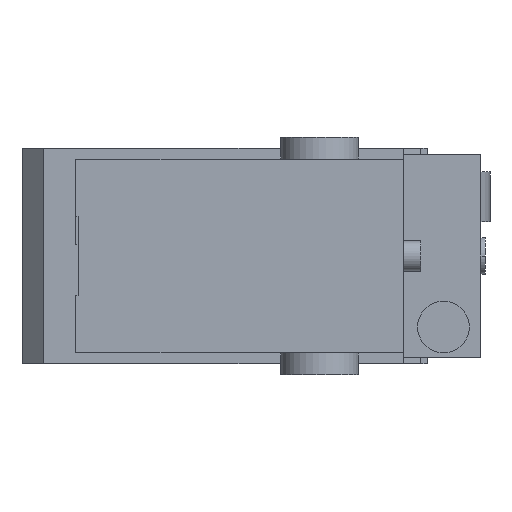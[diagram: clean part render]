
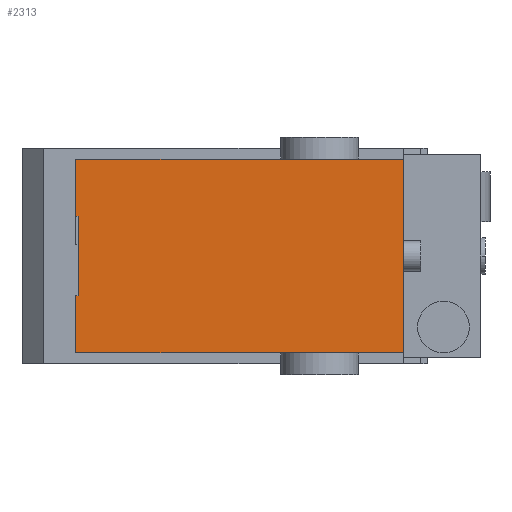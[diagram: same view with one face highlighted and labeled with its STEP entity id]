
A CAD part, front view. The second image highlights one B-rep face of the part: STEP entity #2313.
In plain terms, the highlighted planar face has unit normal (0, -1, 0).
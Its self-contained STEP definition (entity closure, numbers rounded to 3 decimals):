
#3 = ORIENTED_EDGE ( 'NONE', *, *, #6940, .F. ) ;
#20 = ORIENTED_EDGE ( 'NONE', *, *, #6516, .F. ) ;
#122 = EDGE_CURVE ( 'NONE', #5351, #2474, #12546, .T. ) ;
#203 = CARTESIAN_POINT ( 'NONE',  ( 41.5, -183., -22.5 ) ) ;
#331 = LINE ( 'NONE', #4227, #6130 ) ;
#620 = ORIENTED_EDGE ( 'NONE', *, *, #5371, .F. ) ;
#805 = ORIENTED_EDGE ( 'NONE', *, *, #11383, .F. ) ;
#1045 = DIRECTION ( 'NONE',  ( -1., 0., 0. ) ) ;
#1490 = CARTESIAN_POINT ( 'NONE',  ( 41.5, -183., 22.5 ) ) ;
#1623 = EDGE_CURVE ( 'NONE', #5689, #4161, #2937, .T. ) ;
#1735 = EDGE_CURVE ( 'NONE', #10121, #5689, #331, .T. ) ;
#1987 = LINE ( 'NONE', #5065, #4959 ) ;
#2097 = CARTESIAN_POINT ( 'NONE',  ( -34.5, -183., 22.5 ) ) ;
#2145 = PLANE ( 'NONE',  #11464 ) ;
#2291 = CARTESIAN_POINT ( 'NONE',  ( -34., -183., 9.25 ) ) ;
#2313 = ADVANCED_FACE ( 'NONE', ( #6939 ), #2145, .F. ) ;
#2474 = VERTEX_POINT ( 'NONE', #6106 ) ;
#2627 = CARTESIAN_POINT ( 'NONE',  ( -34.5, -183., 9.25 ) ) ;
#2937 = LINE ( 'NONE', #6841, #11640 ) ;
#2979 = CARTESIAN_POINT ( 'NONE',  ( 3.5, -183., 0. ) ) ;
#3054 = CARTESIAN_POINT ( 'NONE',  ( -34.5, -183., -22.5 ) ) ;
#3194 = CARTESIAN_POINT ( 'NONE',  ( -34., -183., -9.25 ) ) ;
#4161 = VERTEX_POINT ( 'NONE', #1490 ) ;
#4227 = CARTESIAN_POINT ( 'NONE',  ( -34.5, -183., 9.25 ) ) ;
#4265 = ORIENTED_EDGE ( 'NONE', *, *, #122, .F. ) ;
#4425 = VECTOR ( 'NONE', #1045, 1000. ) ;
#4492 = EDGE_LOOP ( 'NONE', ( #4265, #3, #620, #8969, #8273, #9004, #20, #805 ) ) ;
#4501 = CARTESIAN_POINT ( 'NONE',  ( -34.5, -183., -22.5 ) ) ;
#4959 = VECTOR ( 'NONE', #5885, 1000. ) ;
#5065 = CARTESIAN_POINT ( 'NONE',  ( 41.5, -183., -22.5 ) ) ;
#5351 = VERTEX_POINT ( 'NONE', #6971 ) ;
#5371 = EDGE_CURVE ( 'NONE', #4161, #11681, #1987, .T. ) ;
#5689 = VERTEX_POINT ( 'NONE', #2097 ) ;
#5885 = DIRECTION ( 'NONE',  ( 0., 0., -1. ) ) ;
#5905 = LINE ( 'NONE', #9805, #4425 ) ;
#6106 = CARTESIAN_POINT ( 'NONE',  ( -34.5, -183., -9.25 ) ) ;
#6130 = VECTOR ( 'NONE', #12021, 1000. ) ;
#6516 = EDGE_CURVE ( 'NONE', #10381, #6967, #10871, .T. ) ;
#6837 = DIRECTION ( 'NONE',  ( -1., 0., 0. ) ) ;
#6841 = CARTESIAN_POINT ( 'NONE',  ( -34.5, -183., 22.5 ) ) ;
#6939 = FACE_OUTER_BOUND ( 'NONE', #4492, .T. ) ;
#6940 = EDGE_CURVE ( 'NONE', #11681, #5351, #9901, .T. ) ;
#6967 = VERTEX_POINT ( 'NONE', #2291 ) ;
#6971 = CARTESIAN_POINT ( 'NONE',  ( -34.5, -183., -22.5 ) ) ;
#7037 = CARTESIAN_POINT ( 'NONE',  ( -34., -183., -9.25 ) ) ;
#7144 = VECTOR ( 'NONE', #6837, 1000. ) ;
#8273 = ORIENTED_EDGE ( 'NONE', *, *, #1735, .F. ) ;
#8468 = DIRECTION ( 'NONE',  ( 1., 0., 0. ) ) ;
#8679 = VECTOR ( 'NONE', #8468, 1000. ) ;
#8969 = ORIENTED_EDGE ( 'NONE', *, *, #1623, .F. ) ;
#9004 = ORIENTED_EDGE ( 'NONE', *, *, #12442, .F. ) ;
#9486 = LINE ( 'NONE', #12482, #8679 ) ;
#9805 = CARTESIAN_POINT ( 'NONE',  ( -34.5, -183., 9.25 ) ) ;
#9816 = DIRECTION ( 'NONE',  ( 0., 0., 1. ) ) ;
#9901 = LINE ( 'NONE', #3054, #7144 ) ;
#10121 = VERTEX_POINT ( 'NONE', #2627 ) ;
#10381 = VERTEX_POINT ( 'NONE', #3194 ) ;
#10436 = DIRECTION ( 'NONE',  ( 0., 0., 1. ) ) ;
#10736 = DIRECTION ( 'NONE',  ( 1., 0., 0. ) ) ;
#10871 = LINE ( 'NONE', #7037, #11683 ) ;
#10939 = DIRECTION ( 'NONE',  ( 0., 0., 1. ) ) ;
#11012 = VECTOR ( 'NONE', #10436, 1000. ) ;
#11383 = EDGE_CURVE ( 'NONE', #2474, #10381, #9486, .T. ) ;
#11464 = AXIS2_PLACEMENT_3D ( 'NONE', #2979, #11858, #9816 ) ;
#11640 = VECTOR ( 'NONE', #10736, 1000. ) ;
#11681 = VERTEX_POINT ( 'NONE', #203 ) ;
#11683 = VECTOR ( 'NONE', #10939, 1000. ) ;
#11858 = DIRECTION ( 'NONE',  ( 0., 1., 0. ) ) ;
#12021 = DIRECTION ( 'NONE',  ( 0., 0., 1. ) ) ;
#12442 = EDGE_CURVE ( 'NONE', #6967, #10121, #5905, .T. ) ;
#12482 = CARTESIAN_POINT ( 'NONE',  ( -34.5, -183., -9.25 ) ) ;
#12546 = LINE ( 'NONE', #4501, #11012 ) ;
